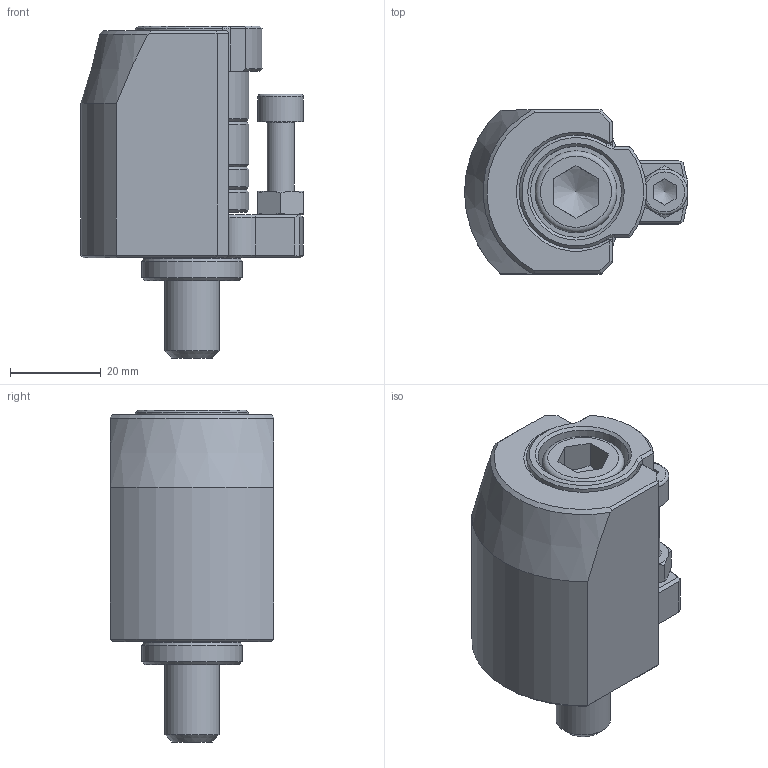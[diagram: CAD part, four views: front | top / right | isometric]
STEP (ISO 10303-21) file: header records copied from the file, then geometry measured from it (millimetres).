
FILE_DESCRIPTION(('STEP AP214'), '1');
FILE_NAME('BB.VS.100.50.050 捘 (1)', '', ('UNSPECIFIED'), ('UNSPECIFIED'), 'C3D Converter', 'C3D Toolkit', '');
FILE_SCHEMA(('AUTOMOTIVE_DESIGN { 1 0 10303 214 3 1 1}'));
Length unit declared in the file: millimetre
Products named in the file (8): BB.VS.100.50.050 СБ; BB.VS.100.50.050/001; BB.VS.100.50.050/003-01; BB.VS.100.50.050/003; BB.VS.100.50.050/002
Assembly tree (8 placements, depth 2):
  BB.VS.100.50.050 СБ
    BB.VS.100.50.050/001
    BB.VS.100.50.050/003-01  x2
    BB.VS.100.50.050/003
    BB.VS.100.50.050/002
    (unnamed)
    (unnamed)
    (unnamed)
Bounding box: 49 x 36 x 73 mm (x, y, z)
Volume: 60065.6 mm3; surface area: 23668.3 mm2
Topology: 8 solids, 8 shells, 165 faces, 367 edges, 223 vertices
Faces by surface type: plane 75, cone 56, cylinder 29, torus 5
Full cylindrical faces by diameter (mm): 4.917 x2, 6 x1, 10 x1, 12 x1, 13 x5, 18 x1, 20 x1, 22 x1, 24.9 x1, 25 x3
Entity records: 5746 total; most frequent: CARTESIAN_POINT 2019, DIRECTION 682, ORIENTED_EDGE 612, EDGE_CURVE 306, AXIS2_PLACEMENT_3D 278, EDGE_LOOP 219, VERTEX_POINT 213, ADVANCED_FACE 157
